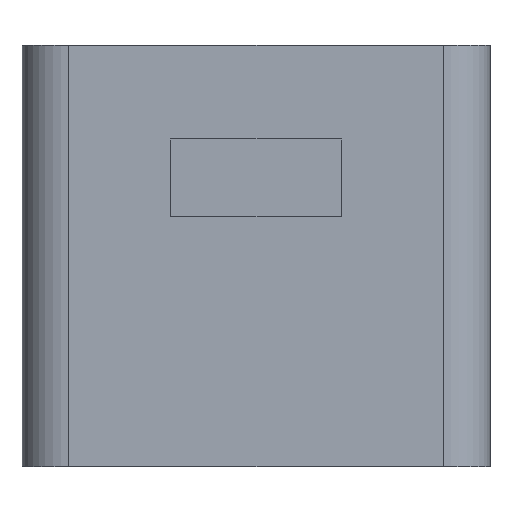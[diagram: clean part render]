
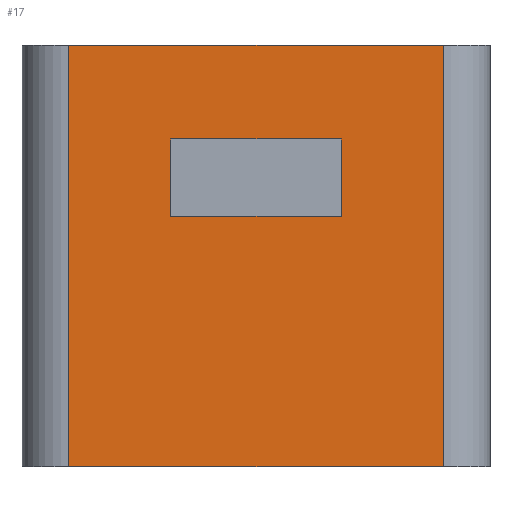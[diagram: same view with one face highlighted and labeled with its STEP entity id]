
A CAD part, left-side view. The second image highlights one B-rep face of the part: STEP entity #17.
In plain terms, the highlighted planar face has unit normal (-1, 0, 0).
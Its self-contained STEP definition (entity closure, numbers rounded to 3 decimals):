
#17 = ADVANCED_FACE('',(#18,#137),#32,.F.);
#18 = FACE_BOUND('',#19,.F.);
#19 = EDGE_LOOP('',(#20,#55,#83,#111));
#20 = ORIENTED_EDGE('',*,*,#21,.F.);
#21 = EDGE_CURVE('',#22,#24,#26,.T.);
#22 = VERTEX_POINT('',#23);
#23 = CARTESIAN_POINT('',(-21.,-8.,9.));
#24 = VERTEX_POINT('',#25);
#25 = CARTESIAN_POINT('',(-21.,8.,9.));
#26 = SURFACE_CURVE('',#27,(#31,#43),.PCURVE_S1.);
#27 = LINE('',#28,#29);
#28 = CARTESIAN_POINT('',(-21.,-10.,9.));
#29 = VECTOR('',#30,1.);
#30 = DIRECTION('',(0.,1.,0.));
#31 = PCURVE('',#32,#37);
#32 = PLANE('',#33);
#33 = AXIS2_PLACEMENT_3D('',#34,#35,#36);
#34 = CARTESIAN_POINT('',(-21.,-10.,-9.));
#35 = DIRECTION('',(1.,0.,0.));
#36 = DIRECTION('',(0.,0.,1.));
#37 = DEFINITIONAL_REPRESENTATION('',(#38),#42);
#38 = LINE('',#39,#40);
#39 = CARTESIAN_POINT('',(18.,0.));
#40 = VECTOR('',#41,1.);
#41 = DIRECTION('',(0.,-1.));
#42 = ( GEOMETRIC_REPRESENTATION_CONTEXT(2) 
PARAMETRIC_REPRESENTATION_CONTEXT() REPRESENTATION_CONTEXT('2D SPACE',''
  ) );
#43 = PCURVE('',#44,#49);
#44 = PLANE('',#45);
#45 = AXIS2_PLACEMENT_3D('',#46,#47,#48);
#46 = CARTESIAN_POINT('',(-21.,-10.,9.));
#47 = DIRECTION('',(0.,0.,1.));
#48 = DIRECTION('',(1.,0.,0.));
#49 = DEFINITIONAL_REPRESENTATION('',(#50),#54);
#50 = LINE('',#51,#52);
#51 = CARTESIAN_POINT('',(0.,0.));
#52 = VECTOR('',#53,1.);
#53 = DIRECTION('',(0.,1.));
#54 = ( GEOMETRIC_REPRESENTATION_CONTEXT(2) 
PARAMETRIC_REPRESENTATION_CONTEXT() REPRESENTATION_CONTEXT('2D SPACE',''
  ) );
#55 = ORIENTED_EDGE('',*,*,#56,.F.);
#56 = EDGE_CURVE('',#57,#22,#59,.T.);
#57 = VERTEX_POINT('',#58);
#58 = CARTESIAN_POINT('',(-21.,-8.,-9.));
#59 = SURFACE_CURVE('',#60,(#64,#71),.PCURVE_S1.);
#60 = LINE('',#61,#62);
#61 = CARTESIAN_POINT('',(-21.,-8.,-9.));
#62 = VECTOR('',#63,1.);
#63 = DIRECTION('',(0.,0.,1.));
#64 = PCURVE('',#32,#65);
#65 = DEFINITIONAL_REPRESENTATION('',(#66),#70);
#66 = LINE('',#67,#68);
#67 = CARTESIAN_POINT('',(0.,-2.));
#68 = VECTOR('',#69,1.);
#69 = DIRECTION('',(1.,0.));
#70 = ( GEOMETRIC_REPRESENTATION_CONTEXT(2) 
PARAMETRIC_REPRESENTATION_CONTEXT() REPRESENTATION_CONTEXT('2D SPACE',''
  ) );
#71 = PCURVE('',#72,#77);
#72 = CYLINDRICAL_SURFACE('',#73,2.);
#73 = AXIS2_PLACEMENT_3D('',#74,#75,#76);
#74 = CARTESIAN_POINT('',(-19.,-8.,-9.));
#75 = DIRECTION('',(0.,0.,1.));
#76 = DIRECTION('',(-1.,-0.,0.));
#77 = DEFINITIONAL_REPRESENTATION('',(#78),#82);
#78 = LINE('',#79,#80);
#79 = CARTESIAN_POINT('',(0.,0.));
#80 = VECTOR('',#81,1.);
#81 = DIRECTION('',(0.,1.));
#82 = ( GEOMETRIC_REPRESENTATION_CONTEXT(2) 
PARAMETRIC_REPRESENTATION_CONTEXT() REPRESENTATION_CONTEXT('2D SPACE',''
  ) );
#83 = ORIENTED_EDGE('',*,*,#84,.T.);
#84 = EDGE_CURVE('',#57,#85,#87,.T.);
#85 = VERTEX_POINT('',#86);
#86 = CARTESIAN_POINT('',(-21.,8.,-9.));
#87 = SURFACE_CURVE('',#88,(#92,#99),.PCURVE_S1.);
#88 = LINE('',#89,#90);
#89 = CARTESIAN_POINT('',(-21.,-10.,-9.));
#90 = VECTOR('',#91,1.);
#91 = DIRECTION('',(0.,1.,0.));
#92 = PCURVE('',#32,#93);
#93 = DEFINITIONAL_REPRESENTATION('',(#94),#98);
#94 = LINE('',#95,#96);
#95 = CARTESIAN_POINT('',(0.,0.));
#96 = VECTOR('',#97,1.);
#97 = DIRECTION('',(0.,-1.));
#98 = ( GEOMETRIC_REPRESENTATION_CONTEXT(2) 
PARAMETRIC_REPRESENTATION_CONTEXT() REPRESENTATION_CONTEXT('2D SPACE',''
  ) );
#99 = PCURVE('',#100,#105);
#100 = PLANE('',#101);
#101 = AXIS2_PLACEMENT_3D('',#102,#103,#104);
#102 = CARTESIAN_POINT('',(-21.,-10.,-9.));
#103 = DIRECTION('',(0.,0.,1.));
#104 = DIRECTION('',(1.,0.,0.));
#105 = DEFINITIONAL_REPRESENTATION('',(#106),#110);
#106 = LINE('',#107,#108);
#107 = CARTESIAN_POINT('',(0.,0.));
#108 = VECTOR('',#109,1.);
#109 = DIRECTION('',(0.,1.));
#110 = ( GEOMETRIC_REPRESENTATION_CONTEXT(2) 
PARAMETRIC_REPRESENTATION_CONTEXT() REPRESENTATION_CONTEXT('2D SPACE',''
  ) );
#111 = ORIENTED_EDGE('',*,*,#112,.T.);
#112 = EDGE_CURVE('',#85,#24,#113,.T.);
#113 = SURFACE_CURVE('',#114,(#118,#125),.PCURVE_S1.);
#114 = LINE('',#115,#116);
#115 = CARTESIAN_POINT('',(-21.,8.,-9.));
#116 = VECTOR('',#117,1.);
#117 = DIRECTION('',(0.,0.,1.));
#118 = PCURVE('',#32,#119);
#119 = DEFINITIONAL_REPRESENTATION('',(#120),#124);
#120 = LINE('',#121,#122);
#121 = CARTESIAN_POINT('',(0.,-18.));
#122 = VECTOR('',#123,1.);
#123 = DIRECTION('',(1.,0.));
#124 = ( GEOMETRIC_REPRESENTATION_CONTEXT(2) 
PARAMETRIC_REPRESENTATION_CONTEXT() REPRESENTATION_CONTEXT('2D SPACE',''
  ) );
#125 = PCURVE('',#126,#131);
#126 = CYLINDRICAL_SURFACE('',#127,2.);
#127 = AXIS2_PLACEMENT_3D('',#128,#129,#130);
#128 = CARTESIAN_POINT('',(-19.,8.,-9.));
#129 = DIRECTION('',(0.,0.,1.));
#130 = DIRECTION('',(-1.,-0.,0.));
#131 = DEFINITIONAL_REPRESENTATION('',(#132),#136);
#132 = LINE('',#133,#134);
#133 = CARTESIAN_POINT('',(-0.,0.));
#134 = VECTOR('',#135,1.);
#135 = DIRECTION('',(-0.,1.));
#136 = ( GEOMETRIC_REPRESENTATION_CONTEXT(2) 
PARAMETRIC_REPRESENTATION_CONTEXT() REPRESENTATION_CONTEXT('2D SPACE',''
  ) );
#137 = FACE_BOUND('',#138,.F.);
#138 = EDGE_LOOP('',(#139,#169,#197,#225));
#139 = ORIENTED_EDGE('',*,*,#140,.T.);
#140 = EDGE_CURVE('',#141,#143,#145,.T.);
#141 = VERTEX_POINT('',#142);
#142 = CARTESIAN_POINT('',(-21.,-3.65,1.7));
#143 = VERTEX_POINT('',#144);
#144 = CARTESIAN_POINT('',(-21.,-3.65,5.));
#145 = SURFACE_CURVE('',#146,(#150,#157),.PCURVE_S1.);
#146 = LINE('',#147,#148);
#147 = CARTESIAN_POINT('',(-21.,-3.65,1.7));
#148 = VECTOR('',#149,1.);
#149 = DIRECTION('',(0.,0.,1.));
#150 = PCURVE('',#32,#151);
#151 = DEFINITIONAL_REPRESENTATION('',(#152),#156);
#152 = LINE('',#153,#154);
#153 = CARTESIAN_POINT('',(10.7,-6.35));
#154 = VECTOR('',#155,1.);
#155 = DIRECTION('',(1.,0.));
#156 = ( GEOMETRIC_REPRESENTATION_CONTEXT(2) 
PARAMETRIC_REPRESENTATION_CONTEXT() REPRESENTATION_CONTEXT('2D SPACE',''
  ) );
#157 = PCURVE('',#158,#163);
#158 = PLANE('',#159);
#159 = AXIS2_PLACEMENT_3D('',#160,#161,#162);
#160 = CARTESIAN_POINT('',(-21.,-3.65,1.7));
#161 = DIRECTION('',(0.,1.,0.));
#162 = DIRECTION('',(0.,0.,1.));
#163 = DEFINITIONAL_REPRESENTATION('',(#164),#168);
#164 = LINE('',#165,#166);
#165 = CARTESIAN_POINT('',(0.,0.));
#166 = VECTOR('',#167,1.);
#167 = DIRECTION('',(1.,0.));
#168 = ( GEOMETRIC_REPRESENTATION_CONTEXT(2) 
PARAMETRIC_REPRESENTATION_CONTEXT() REPRESENTATION_CONTEXT('2D SPACE',''
  ) );
#169 = ORIENTED_EDGE('',*,*,#170,.T.);
#170 = EDGE_CURVE('',#143,#171,#173,.T.);
#171 = VERTEX_POINT('',#172);
#172 = CARTESIAN_POINT('',(-21.,3.65,5.));
#173 = SURFACE_CURVE('',#174,(#178,#185),.PCURVE_S1.);
#174 = LINE('',#175,#176);
#175 = CARTESIAN_POINT('',(-21.,-3.65,5.));
#176 = VECTOR('',#177,1.);
#177 = DIRECTION('',(0.,1.,0.));
#178 = PCURVE('',#32,#179);
#179 = DEFINITIONAL_REPRESENTATION('',(#180),#184);
#180 = LINE('',#181,#182);
#181 = CARTESIAN_POINT('',(14.,-6.35));
#182 = VECTOR('',#183,1.);
#183 = DIRECTION('',(0.,-1.));
#184 = ( GEOMETRIC_REPRESENTATION_CONTEXT(2) 
PARAMETRIC_REPRESENTATION_CONTEXT() REPRESENTATION_CONTEXT('2D SPACE',''
  ) );
#185 = PCURVE('',#186,#191);
#186 = PLANE('',#187);
#187 = AXIS2_PLACEMENT_3D('',#188,#189,#190);
#188 = CARTESIAN_POINT('',(-21.,-3.65,5.));
#189 = DIRECTION('',(0.,0.,1.));
#190 = DIRECTION('',(1.,0.,0.));
#191 = DEFINITIONAL_REPRESENTATION('',(#192),#196);
#192 = LINE('',#193,#194);
#193 = CARTESIAN_POINT('',(0.,0.));
#194 = VECTOR('',#195,1.);
#195 = DIRECTION('',(0.,1.));
#196 = ( GEOMETRIC_REPRESENTATION_CONTEXT(2) 
PARAMETRIC_REPRESENTATION_CONTEXT() REPRESENTATION_CONTEXT('2D SPACE',''
  ) );
#197 = ORIENTED_EDGE('',*,*,#198,.F.);
#198 = EDGE_CURVE('',#199,#171,#201,.T.);
#199 = VERTEX_POINT('',#200);
#200 = CARTESIAN_POINT('',(-21.,3.65,1.7));
#201 = SURFACE_CURVE('',#202,(#206,#213),.PCURVE_S1.);
#202 = LINE('',#203,#204);
#203 = CARTESIAN_POINT('',(-21.,3.65,1.7));
#204 = VECTOR('',#205,1.);
#205 = DIRECTION('',(0.,0.,1.));
#206 = PCURVE('',#32,#207);
#207 = DEFINITIONAL_REPRESENTATION('',(#208),#212);
#208 = LINE('',#209,#210);
#209 = CARTESIAN_POINT('',(10.7,-13.65));
#210 = VECTOR('',#211,1.);
#211 = DIRECTION('',(1.,0.));
#212 = ( GEOMETRIC_REPRESENTATION_CONTEXT(2) 
PARAMETRIC_REPRESENTATION_CONTEXT() REPRESENTATION_CONTEXT('2D SPACE',''
  ) );
#213 = PCURVE('',#214,#219);
#214 = PLANE('',#215);
#215 = AXIS2_PLACEMENT_3D('',#216,#217,#218);
#216 = CARTESIAN_POINT('',(-21.,3.65,1.7));
#217 = DIRECTION('',(0.,1.,0.));
#218 = DIRECTION('',(0.,0.,1.));
#219 = DEFINITIONAL_REPRESENTATION('',(#220),#224);
#220 = LINE('',#221,#222);
#221 = CARTESIAN_POINT('',(0.,0.));
#222 = VECTOR('',#223,1.);
#223 = DIRECTION('',(1.,0.));
#224 = ( GEOMETRIC_REPRESENTATION_CONTEXT(2) 
PARAMETRIC_REPRESENTATION_CONTEXT() REPRESENTATION_CONTEXT('2D SPACE',''
  ) );
#225 = ORIENTED_EDGE('',*,*,#226,.F.);
#226 = EDGE_CURVE('',#141,#199,#227,.T.);
#227 = SURFACE_CURVE('',#228,(#232,#239),.PCURVE_S1.);
#228 = LINE('',#229,#230);
#229 = CARTESIAN_POINT('',(-21.,-3.65,1.7));
#230 = VECTOR('',#231,1.);
#231 = DIRECTION('',(0.,1.,0.));
#232 = PCURVE('',#32,#233);
#233 = DEFINITIONAL_REPRESENTATION('',(#234),#238);
#234 = LINE('',#235,#236);
#235 = CARTESIAN_POINT('',(10.7,-6.35));
#236 = VECTOR('',#237,1.);
#237 = DIRECTION('',(0.,-1.));
#238 = ( GEOMETRIC_REPRESENTATION_CONTEXT(2) 
PARAMETRIC_REPRESENTATION_CONTEXT() REPRESENTATION_CONTEXT('2D SPACE',''
  ) );
#239 = PCURVE('',#240,#245);
#240 = PLANE('',#241);
#241 = AXIS2_PLACEMENT_3D('',#242,#243,#244);
#242 = CARTESIAN_POINT('',(-21.,-3.65,1.7));
#243 = DIRECTION('',(0.,0.,1.));
#244 = DIRECTION('',(1.,0.,0.));
#245 = DEFINITIONAL_REPRESENTATION('',(#246),#250);
#246 = LINE('',#247,#248);
#247 = CARTESIAN_POINT('',(0.,0.));
#248 = VECTOR('',#249,1.);
#249 = DIRECTION('',(0.,1.));
#250 = ( GEOMETRIC_REPRESENTATION_CONTEXT(2) 
PARAMETRIC_REPRESENTATION_CONTEXT() REPRESENTATION_CONTEXT('2D SPACE',''
  ) );
